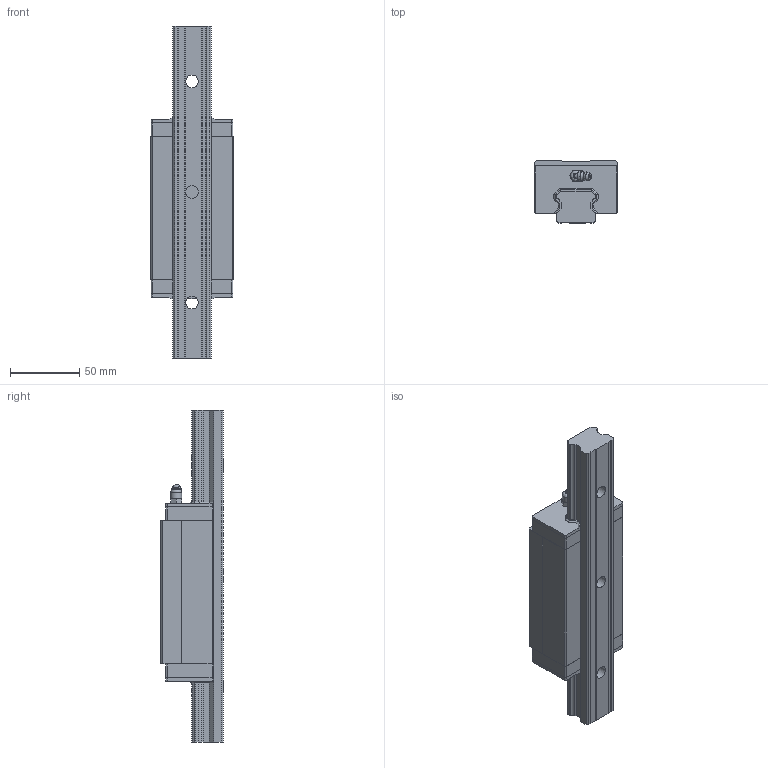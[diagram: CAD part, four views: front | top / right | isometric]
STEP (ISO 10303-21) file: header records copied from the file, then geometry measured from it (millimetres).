
FILE_DESCRIPTION((''),'2;1');
FILE_NAME('C:\Documents and Settings\土屋\My Documents\土屋移動用フォルダ\製品 (図面)\カタログ用3D\リニアガイド\EGH-L\EGH30L.stp','2015-12-15T17:45:58',('y'),(''),'Autodesk Inventor 11','Autodesk Inventor 11','');
FILE_SCHEMA(('AUTOMOTIVE_DESIGN { 1 0 10303 214 1 1 1 1 }'));
Length unit declared in the file: millimetre
Products named in the file (3): EGH30L; EGH30Lレール; EGH30Lキャリッジ
Assembly tree (2 placements, depth 2):
  EGH30L
    EGH30Lレール
    EGH30Lキャリッジ
Bounding box: 60 x 45 x 240 mm (x, y, z)
Volume: 363677.1 mm3; surface area: 76722 mm2
Topology: 7 solids, 7 shells, 313 faces, 853 edges, 564 vertices
Faces by surface type: plane 175, cylinder 110, cone 24, bspline 2, torus 1, sphere 1
Full cylindrical faces by diameter (mm): 6 x5, 7 x4, 7.75 x1, 8 x5, 9 x3, 14 x3
Entity records: 9910 total; most frequent: CARTESIAN_POINT 1853, DIRECTION 1696, ORIENTED_EDGE 1620, EDGE_CURVE 810, AXIS2_PLACEMENT_3D 579, VERTEX_POINT 555, VECTOR 538, LINE 538
